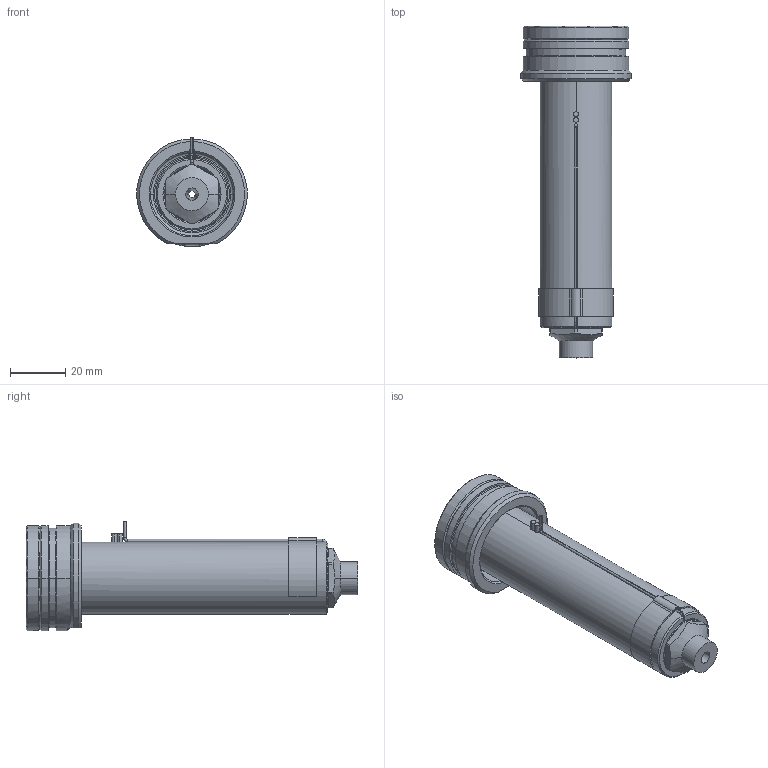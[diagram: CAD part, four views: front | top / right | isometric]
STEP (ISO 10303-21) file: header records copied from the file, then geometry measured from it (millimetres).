
FILE_DESCRIPTION((''),'2;1');
FILE_NAME('EO08_SG_SG_100_SW','2024-02-19T12:20:20',('sundharh'),(''),'CREO PARAMETRIC BY PTC INC, 2023154','CREO PARAMETRIC BY PTC INC, 2023154','');
FILE_SCHEMA(('CONFIG_CONTROL_DESIGN'));
Length unit declared in the file: millimetre
Products named in the file (1): EO08_SG_SG_100_SW
Bounding box: 39.88 x 120 x 39.52 mm (x, y, z)
Volume: 63992.7 mm3; surface area: 18708.1 mm2
Topology: 1 solids, 1 shells, 167 faces, 419 edges, 256 vertices
Faces by surface type: cylinder 64, plane 44, cone 33, torus 19, bspline 4, sphere 3
Entity records: 6167 total; most frequent: CARTESIAN_POINT 2094, DIRECTION 895, ORIENTED_EDGE 826, EDGE_CURVE 413, AXIS2_PLACEMENT_3D 370, VERTEX_POINT 256, CIRCLE 207, EDGE_LOOP 183
